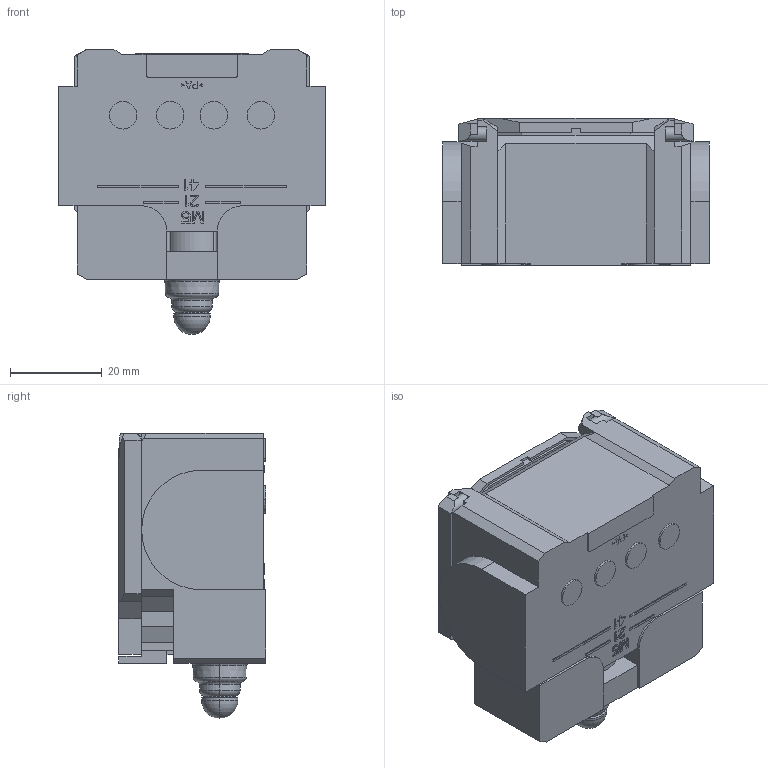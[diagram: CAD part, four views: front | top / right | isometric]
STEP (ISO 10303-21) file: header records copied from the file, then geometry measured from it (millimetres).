
FILE_DESCRIPTION((''),'2;1');
FILE_NAME('BI-W_SW0001','2012-05-08T',('Y.Storm'),(''),'PRO/ENGINEER BY PARAMETRIC TECHNOLOGY CORPORATION, 2005070','PRO/ENGINEER BY PARAMETRIC TECHNOLOGY CORPORATION, 2005070','');
FILE_SCHEMA(('AUTOMOTIVE_DESIGN_CC2 { 1 2 10303 214 -1 1 5 2 }'));
Length unit declared in the file: millimetre
Products named in the file (1): BI-W_SW0001
Bounding box: 58 x 32.1 x 62 mm (x, y, z)
Surface area: 18408.8 mm2 (no closed solid volume)
Topology: 0 solids, 24 shells, 340 faces, 1049 edges, 717 vertices
Faces by surface type: plane 292, cylinder 32, torus 10, cone 4, sphere 2
Entity records: 16944 total; most frequent: CARTESIAN_POINT 2144, DIRECTION 1831, ORIENTED_EDGE 1786, PRESENTATION_STYLE_ASSIGNMENT 1393, STYLED_ITEM 1053, CURVE_STYLE 1047, EDGE_CURVE 1047, VECTOR 935
